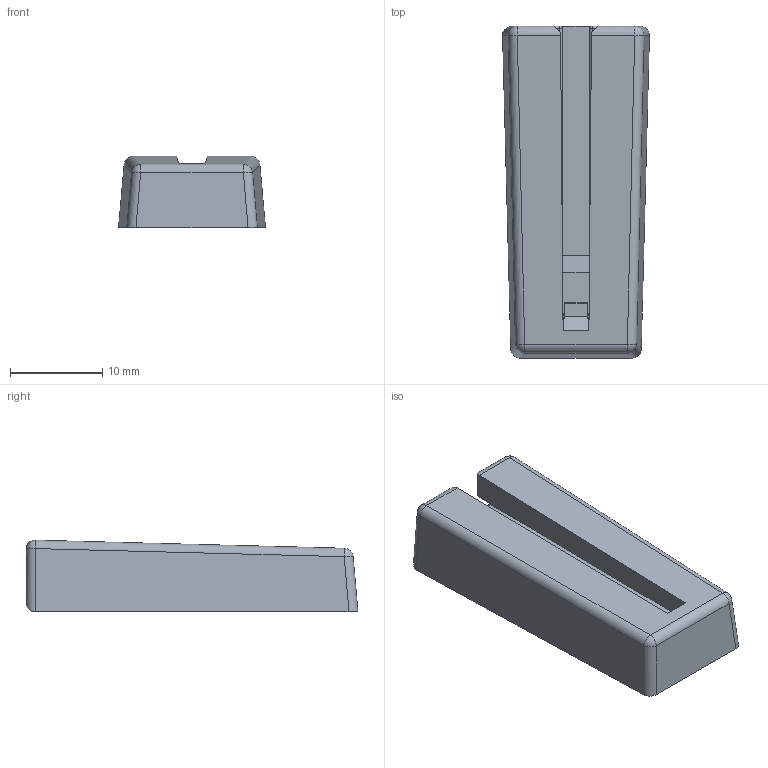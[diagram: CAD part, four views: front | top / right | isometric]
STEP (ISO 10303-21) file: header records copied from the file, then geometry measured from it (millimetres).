
FILE_DESCRIPTION (( 'STEP AP203' ), '1' );
FILE_NAME ('00023278 - Basic Fingertip Soft.step', '2013-04-05T16:24:50', ( '' ), ( '' ), 'SwSTEP 2.0', 'SolidWorks 2012', '' );
FILE_SCHEMA (( 'CONFIG_CONTROL_DESIGN' ));
Length unit declared in the file: millimetre
Products named in the file (1): 00023278 - Basic Fingertip Soft
Bounding box: 15.93 x 36 x 7.77 mm (x, y, z)
Volume: 2773.7 mm3; surface area: 2399.3 mm2
Topology: 1 solids, 1 shells, 102 faces, 266 edges, 162 vertices
Faces by surface type: cylinder 47, plane 38, sphere 9, bspline 8
Entity records: 3168 total; most frequent: CARTESIAN_POINT 855, ORIENTED_EDGE 520, DIRECTION 413, EDGE_CURVE 260, VERTEX_POINT 162, LINE 145, VECTOR 145, AXIS2_PLACEMENT_3D 134
